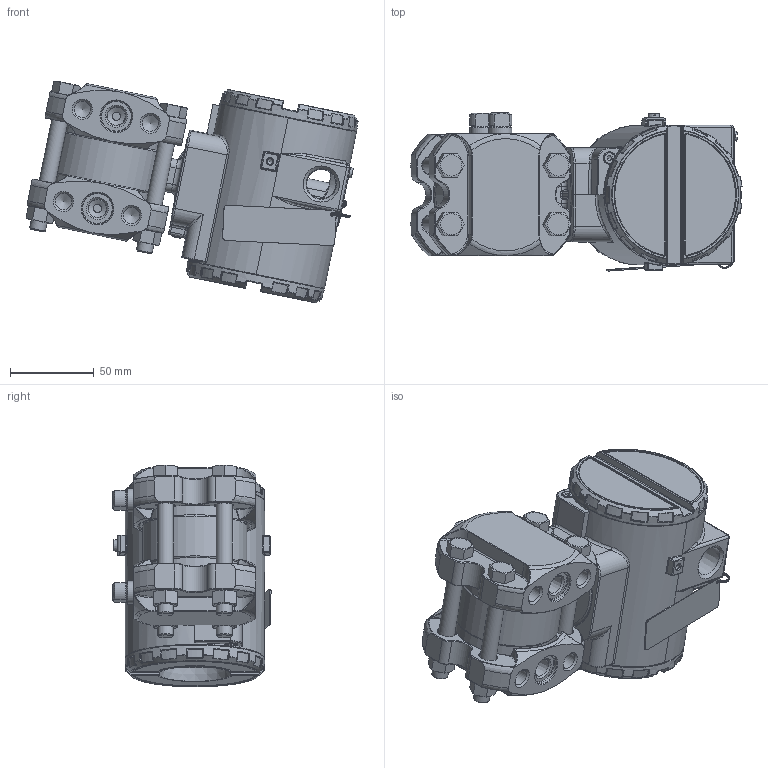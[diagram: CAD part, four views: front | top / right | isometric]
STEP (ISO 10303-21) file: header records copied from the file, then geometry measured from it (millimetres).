
FILE_DESCRIPTION(/* description */ (''),/* implementation_level */ '2;1');
FILE_NAME(/* name */ 'F:\Area\Desenvolvimento_2\Projects\Sensor\projetos\LD30X\montagens 3d - clientes\LD30XH4 1-4NPT Monel sem purga.stp',/* time_stamp */ '2023-01-26T13:19:32-03:00',/* author */ ('inventor02'),/* organization */ (''),/* preprocessor_version */ 'ST-DEVELOPER v17',/* originating_system */ 'Autodesk Inventor 2019',/* authorisation */ '');
FILE_SCHEMA (('CONFIG_CONTROL_DESIGN'));
Products named in the file (28): LD30XH4 1-4NPT Monel sem purga; diferencial FX4 monel sem purga; involucro fx4 apos a usinagem final; bujao 1-4NPT; 101-C-0040-05 monel barra 7-16; Paraf. 3-8 x 16 UNC; Porca 3-8 x 16 UNC; carcaça vazia com tampas e plaqueta; carcaça LD inox sem letras; Subconjunto plaqueta 300; Plaqueta transmissor; Parafuso da Plaqueta; Rebite da Plaqueta; 096-A-0169-03; 101-A-0502-01; Chapa aterramento externo; ISO 1207 - M4 x 8; DIN 915 - M6 x 10; ANSI B18.3.1M - M4x0,7 x 8; Subconjunto tampa com visor aluminio; tampa pintada; VIDRO DO VISOR; oring 41x1 vidro tampa; Trava do vidro da tampa com visor; trava do vidro VH256; Subconjunto tampa sem visor-aluminio; tampa cega 300 pintada p0; 00034775-0
Assembly tree (37 placements, depth 4):
  LD30XH4 1-4NPT Monel sem purga
    diferencial FX4 monel sem purga
      involucro fx4 apos a usinagem final
      bujao 1-4NPT  x2
      101-C-0040-05 monel barra 7-16  x2
      Paraf. 3-8 x 16 UNC  x4
      Porca 3-8 x 16 UNC  x4
    carcaça vazia com tampas e plaqueta
      carcaça LD inox sem letras
      Subconjunto plaqueta 300
        Plaqueta transmissor
        Parafuso da Plaqueta
        Rebite da Plaqueta
        096-A-0169-03
        101-A-0502-01
      Chapa aterramento externo
      ISO 1207 - M4 x 8
      DIN 915 - M6 x 10
      ANSI B18.3.1M - M4x0,7 x 8  x2
      Subconjunto tampa com visor aluminio
        tampa pintada
        VIDRO DO VISOR
        oring 41x1 vidro tampa
        Trava do vidro da tampa com visor
        trava do vidro VH256
        00034775-0
      Subconjunto tampa sem visor-aluminio
        tampa cega 300 pintada p0
        00034775-0
Bounding box: 197.68 x 94.1 x 132.02 mm (x, y, z)
Volume: 637882.2 mm3; surface area: 234751.4 mm2
Topology: 32 solids, 32 shells, 2216 faces, 5361 edges, 3177 vertices
Faces by surface type: bspline 589, cylinder 483, plane 440, torus 348, cone 253, sphere 103
Full cylindrical faces by diameter (mm): 2 x2, 2.1 x2, 2.459 x5, 2.642 x1, 2.7 x1, 3 x1, 3.242 x4, 3.5 x4, 3.571 x1, 4 x4, 4.3 x1, 4.4 x1, 4.917 x1, 5 x4, 6 x2, 7 x4, 7.087 x2, 7.6 x2, 7.798 x4, 8.7 x2, 9.525 x4, 9.728 x8, 10.5 x8, 10.719 x4, 12 x2, 13.8 x2, 14 x1, 17.475 x2, 18.5 x4, 26 x2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
Entity records: 70579 total; most frequent: CARTESIAN_POINT 27805, ORIENTED_EDGE 8968, DIRECTION 8513, EDGE_CURVE 4484, AXIS2_PLACEMENT_3D 3742, VERTEX_POINT 2674, CIRCLE 2209, EDGE_LOOP 1990
